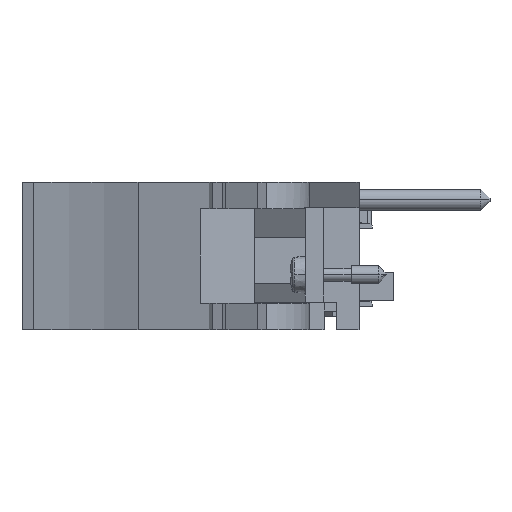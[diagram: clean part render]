
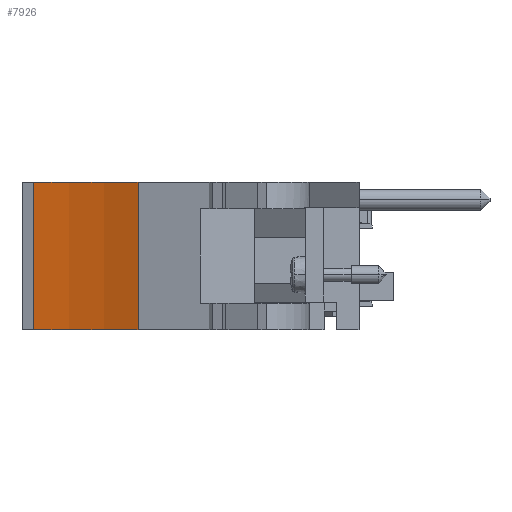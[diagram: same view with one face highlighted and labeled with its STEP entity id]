
A CAD part, front view. The second image highlights one B-rep face of the part: STEP entity #7926.
In plain terms, the highlighted cylindrical face has radius 51.46 mm (diameter 102.919 mm), a partial arc.
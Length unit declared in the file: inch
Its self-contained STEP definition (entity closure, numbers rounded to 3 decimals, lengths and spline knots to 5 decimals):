
#81=CARTESIAN_POINT('',(-6.04908,-5.95079,-0.15471));
#82=DIRECTION('',(0.,0.,1.));
#83=DIRECTION('',(0.435,0.9,0.));
#84=AXIS2_PLACEMENT_3D('',#81,#82,#83);
#2122=CARTESIAN_POINT('',(-6.04908,-5.95079,0.63329));
#2123=DIRECTION('',(0.,0.,1.));
#2124=DIRECTION('',(0.435,0.9,0.));
#2125=AXIS2_PLACEMENT_3D('',#2122,#2123,#2124);
#2371=DIRECTION('',(0.,0.,1.));
#2372=VECTOR('',#2371,0.788);
#2373=CARTESIAN_POINT('',(-5.16777,-4.12655,
-0.15471));
#2374=LINE('',#2373,#2372);
#2387=DIRECTION('',(0.,0.,1.));
#2388=VECTOR('',#2387,0.788);
#2389=CARTESIAN_POINT('',(-5.72574,-3.95079,-0.15471));
#2390=LINE('',#2389,#2388);
#4494=CARTESIAN_POINT('',(-5.16777,-4.12655,
-0.15471));
#4495=CARTESIAN_POINT('',(-5.72574,-3.95079,-0.15471));
#4496=VERTEX_POINT('',#4494);
#4497=VERTEX_POINT('',#4495);
#4498=CARTESIAN_POINT('',(-5.16777,-4.12655,
0.63329));
#4499=CARTESIAN_POINT('',(-5.72574,-3.95079,0.63329));
#4500=VERTEX_POINT('',#4498);
#4501=VERTEX_POINT('',#4499);
#7914=CARTESIAN_POINT('',(-6.04908,-5.95079,0.63329));
#7915=DIRECTION('',(0.,0.,1.));
#7916=DIRECTION('',(0.,1.,0.));
#7917=AXIS2_PLACEMENT_3D('',#7914,#7915,#7916);
#7918=CYLINDRICAL_SURFACE('',#7917,2.02597);
#7919=ORIENTED_EDGE('',*,*,#4786,.T.);
#7921=ORIENTED_EDGE('',*,*,#7920,.T.);
#7922=ORIENTED_EDGE('',*,*,#7601,.F.);
#7923=ORIENTED_EDGE('',*,*,#7901,.F.);
#7924=EDGE_LOOP('',(#7919,#7921,#7922,#7923));
#7925=FACE_OUTER_BOUND('',#7924,.F.);
#7926=ADVANCED_FACE('',(#7925),#7918,.F.);
#85=CIRCLE('',#84,2.02597);
#2126=CIRCLE('',#2125,2.02597);
#4786=EDGE_CURVE('',#4496,#4497,#85,.T.);
#7601=EDGE_CURVE('',#4500,#4501,#2126,.T.);
#7901=EDGE_CURVE('',#4496,#4500,#2374,.T.);
#7920=EDGE_CURVE('',#4497,#4501,#2390,.T.);
